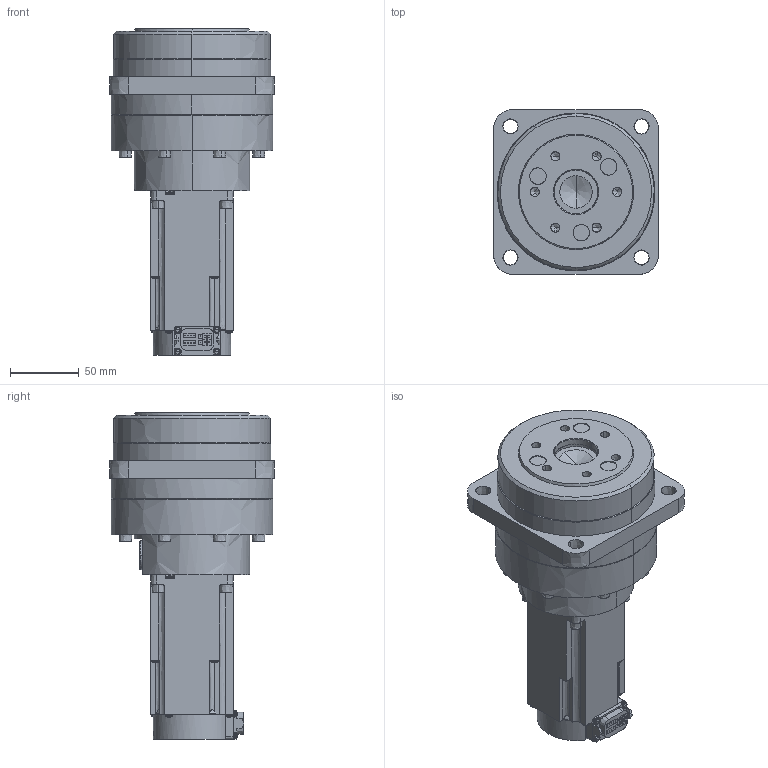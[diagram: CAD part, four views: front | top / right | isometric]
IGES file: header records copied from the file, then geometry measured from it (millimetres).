
Start section:  PTC IGES file: bc70086_hk-kt43wbg5-32a-45.igs
Global section: file name: bc70086_hk-kt43wbg5-32a-45.igs; native system: Creo Parametric by PTC Inc.; preprocessor: 2018220; author: pc0000; organization: Unknown; date: 20190620.144037; units: millimetre
Bounding box: 120 x 120 x 238.1 mm (x, y, z)
Volume: 1503093 mm3; surface area: 103262.5 mm2
Topology: 1 solids, 1 shells, 582 faces, 1458 edges, 911 vertices
Faces by surface type: bspline 582
